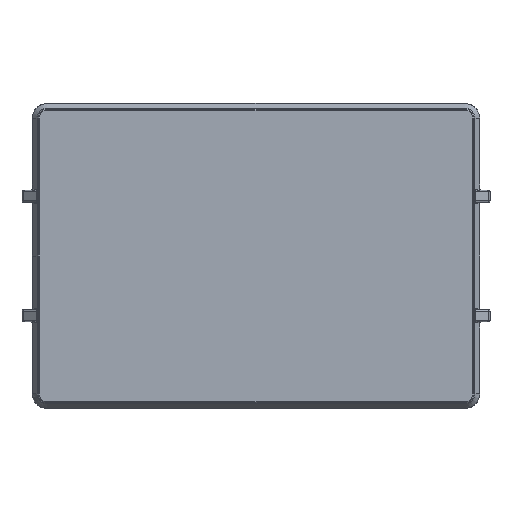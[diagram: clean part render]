
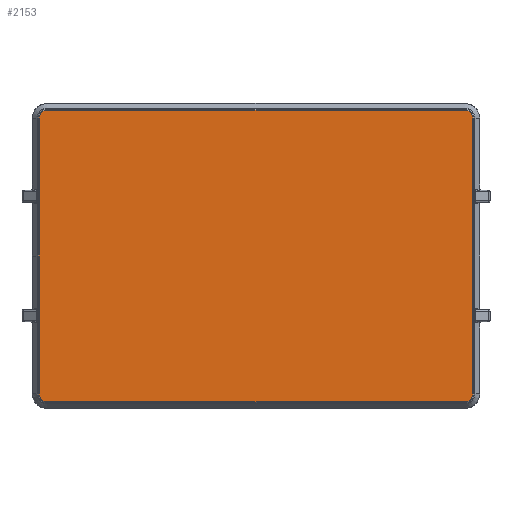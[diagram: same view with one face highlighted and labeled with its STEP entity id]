
A CAD part, front view. The second image highlights one B-rep face of the part: STEP entity #2153.
In plain terms, the highlighted planar face has unit normal (0, -1, 0).
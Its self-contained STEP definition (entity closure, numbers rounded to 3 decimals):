
#51 = CARTESIAN_POINT ( 'NONE',  ( 88., -1., 61.334 ) ) ;
#184 = DIRECTION ( 'NONE',  ( 0., -1., 0. ) ) ;
#220 = CARTESIAN_POINT ( 'NONE',  ( -91.334, -1., 0. ) ) ;
#384 = DIRECTION ( 'NONE',  ( 1., 0., 0. ) ) ;
#543 = ORIENTED_EDGE ( 'NONE', *, *, #10848, .T. ) ;
#548 = EDGE_CURVE ( 'NONE', #2377, #7843, #8931, .T. ) ;
#554 = CARTESIAN_POINT ( 'NONE',  ( 88., -1., -58. ) ) ;
#693 = DIRECTION ( 'NONE',  ( 0., -1., 0. ) ) ;
#751 = EDGE_CURVE ( 'NONE', #12856, #5995, #14810, .T. ) ;
#1215 = CIRCLE ( 'NONE', #11953, 3.334 ) ;
#1562 = CARTESIAN_POINT ( 'NONE',  ( 88., -1., -61.334 ) ) ;
#1569 = EDGE_LOOP ( 'NONE', ( #4583, #3465, #6969, #543, #3147, #2243, #3579, #11820, #3283 ) ) ;
#1966 = CARTESIAN_POINT ( 'NONE',  ( 91.334, -1., -58. ) ) ;
#2153 = ADVANCED_FACE ( 'NONE', ( #15178 ), #2584, .F. ) ;
#2243 = ORIENTED_EDGE ( 'NONE', *, *, #8469, .T. ) ;
#2377 = VERTEX_POINT ( 'NONE', #6775 ) ;
#2584 = PLANE ( 'NONE',  #5707 ) ;
#2772 = DIRECTION ( 'NONE',  ( 0., 0., -1. ) ) ;
#2909 = VECTOR ( 'NONE', #2772, 1000. ) ;
#3147 = ORIENTED_EDGE ( 'NONE', *, *, #548, .T. ) ;
#3283 = ORIENTED_EDGE ( 'NONE', *, *, #6128, .T. ) ;
#3465 = ORIENTED_EDGE ( 'NONE', *, *, #751, .T. ) ;
#3579 = ORIENTED_EDGE ( 'NONE', *, *, #6962, .T. ) ;
#3739 = VERTEX_POINT ( 'NONE', #5996 ) ;
#3938 = CIRCLE ( 'NONE', #6140, 3.334 ) ;
#4535 = CIRCLE ( 'NONE', #4778, 3.334 ) ;
#4570 = VERTEX_POINT ( 'NONE', #13255 ) ;
#4583 = ORIENTED_EDGE ( 'NONE', *, *, #13146, .T. ) ;
#4612 = LINE ( 'NONE', #51, #14199 ) ;
#4679 = LINE ( 'NONE', #5199, #14414 ) ;
#4778 = AXIS2_PLACEMENT_3D ( 'NONE', #554, #8376, #8604 ) ;
#5118 = LINE ( 'NONE', #12141, #2909 ) ;
#5173 = DIRECTION ( 'NONE',  ( 0., 0., 1. ) ) ;
#5199 = CARTESIAN_POINT ( 'NONE',  ( -91.334, -1., 58. ) ) ;
#5707 = AXIS2_PLACEMENT_3D ( 'NONE', #220, #13031, #6007 ) ;
#5758 = CARTESIAN_POINT ( 'NONE',  ( -88., -1., -58. ) ) ;
#5899 = DIRECTION ( 'NONE',  ( 0., -1., 0. ) ) ;
#5995 = VERTEX_POINT ( 'NONE', #6678 ) ;
#5996 = CARTESIAN_POINT ( 'NONE',  ( -88., -1., 61.334 ) ) ;
#6007 = DIRECTION ( 'NONE',  ( 0., 0., 1. ) ) ;
#6128 = EDGE_CURVE ( 'NONE', #9330, #14881, #4679, .T. ) ;
#6140 = AXIS2_PLACEMENT_3D ( 'NONE', #14350, #5899, #9666 ) ;
#6603 = DIRECTION ( 'NONE',  ( 0., 0., 1. ) ) ;
#6678 = CARTESIAN_POINT ( 'NONE',  ( -88., -1., -61.334 ) ) ;
#6714 = CARTESIAN_POINT ( 'NONE',  ( -91.334, -1., 58. ) ) ;
#6775 = CARTESIAN_POINT ( 'NONE',  ( 91.334, -1., -58. ) ) ;
#6962 = EDGE_CURVE ( 'NONE', #4570, #3739, #4612, .T. ) ;
#6969 = ORIENTED_EDGE ( 'NONE', *, *, #11172, .T. ) ;
#7334 = CARTESIAN_POINT ( 'NONE',  ( -88., -1., -61.334 ) ) ;
#7843 = VERTEX_POINT ( 'NONE', #8200 ) ;
#8183 = AXIS2_PLACEMENT_3D ( 'NONE', #5758, #184, #14213 ) ;
#8200 = CARTESIAN_POINT ( 'NONE',  ( 91.334, -1., 58. ) ) ;
#8376 = DIRECTION ( 'NONE',  ( 0., -1., 0. ) ) ;
#8469 = EDGE_CURVE ( 'NONE', #7843, #4570, #3938, .T. ) ;
#8604 = DIRECTION ( 'NONE',  ( 0., 0., -1. ) ) ;
#8931 = LINE ( 'NONE', #1966, #10870 ) ;
#9094 = EDGE_CURVE ( 'NONE', #3739, #9330, #1215, .T. ) ;
#9330 = VERTEX_POINT ( 'NONE', #6714 ) ;
#9666 = DIRECTION ( 'NONE',  ( 1., 0., 0. ) ) ;
#10444 = VECTOR ( 'NONE', #384, 1000. ) ;
#10462 = DIRECTION ( 'NONE',  ( -1., 0., 0. ) ) ;
#10848 = EDGE_CURVE ( 'NONE', #11913, #2377, #4535, .T. ) ;
#10870 = VECTOR ( 'NONE', #6603, 1000. ) ;
#11172 = EDGE_CURVE ( 'NONE', #5995, #11913, #13347, .T. ) ;
#11188 = CARTESIAN_POINT ( 'NONE',  ( -88., -1., 58. ) ) ;
#11820 = ORIENTED_EDGE ( 'NONE', *, *, #9094, .T. ) ;
#11913 = VERTEX_POINT ( 'NONE', #1562 ) ;
#11953 = AXIS2_PLACEMENT_3D ( 'NONE', #11188, #693, #5173 ) ;
#12141 = CARTESIAN_POINT ( 'NONE',  ( -91.334, -1., 0. ) ) ;
#12856 = VERTEX_POINT ( 'NONE', #15057 ) ;
#13031 = DIRECTION ( 'NONE',  ( 0., 1., 0. ) ) ;
#13146 = EDGE_CURVE ( 'NONE', #14881, #12856, #5118, .T. ) ;
#13183 = CARTESIAN_POINT ( 'NONE',  ( -91.334, -1., 0. ) ) ;
#13255 = CARTESIAN_POINT ( 'NONE',  ( 88., -1., 61.334 ) ) ;
#13347 = LINE ( 'NONE', #7334, #10444 ) ;
#13439 = DIRECTION ( 'NONE',  ( 0., 0., -1. ) ) ;
#14199 = VECTOR ( 'NONE', #10462, 1000. ) ;
#14213 = DIRECTION ( 'NONE',  ( -1., 0., 0. ) ) ;
#14350 = CARTESIAN_POINT ( 'NONE',  ( 88., -1., 58. ) ) ;
#14414 = VECTOR ( 'NONE', #13439, 1000. ) ;
#14810 = CIRCLE ( 'NONE', #8183, 3.334 ) ;
#14881 = VERTEX_POINT ( 'NONE', #13183 ) ;
#15057 = CARTESIAN_POINT ( 'NONE',  ( -91.334, -1., -58. ) ) ;
#15178 = FACE_OUTER_BOUND ( 'NONE', #1569, .T. ) ;
